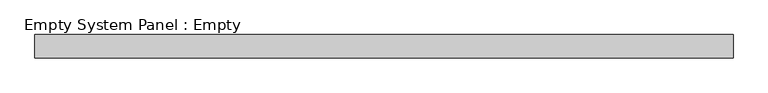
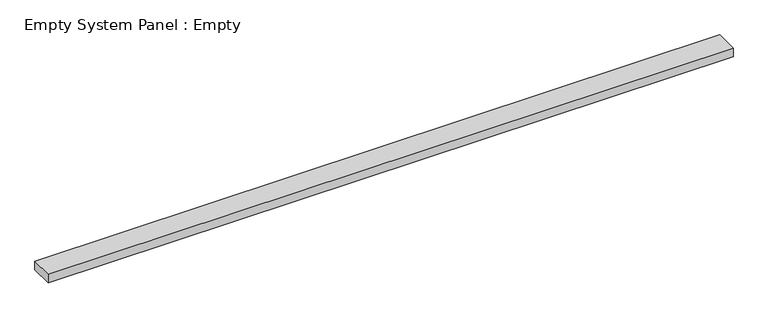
"""IFC4 building model written with IfcOpenShell, lengths in millimetres: plate geometry, Empty System Panel : Empty."""

from ifc_helpers import new_model, si_unit, origin, origin_with_axes, place, context, project, spatial, polyline, outline, extrude, source, transform, mapped, element, save


def empty_system_panel_empty_ad0aa078(model_context):
    return source(origin(), model_context, "Body", "SweptSolid", [
        extrude(outline(polyline([(1500.0, 50.0), (-1500.0, 50.0), (-1500.0, 150.0), (1500.0, 150.0), (1500.0, 50.0)])), origin_with_axes(), (0.0, 0.0, 1.0), 40.0),
    ])


if __name__ == "__main__":
    model = new_model("IFC4")
    model_context = context("Model", 3, world=origin())
    ifc_project = project(units=[si_unit("LENGTHUNIT", "METRE", prefix="MILLI")], contexts=[model_context])
    site = spatial("IfcSite", under=ifc_project)
    building = spatial("IfcBuilding", under=site)
    placement = place(None, origin())
    empty_system_panel_empty_shape = empty_system_panel_empty_ad0aa078(model_context)
    element("IfcPlate", 1, ObjectType="Empty System Panel : Empty", at=placement, inside=building, context=model_context, shape_type="MappedRepresentation", body=[
        mapped(empty_system_panel_empty_shape, transform((0.0, 0.0, 0.0), x_axis=(1.0, 0.0, 0.0), y_axis=(0.0, 1.0, 0.0), z_axis=(0.0, 0.0, 1.0))),
    ])
    save(model, "model.ifc")
